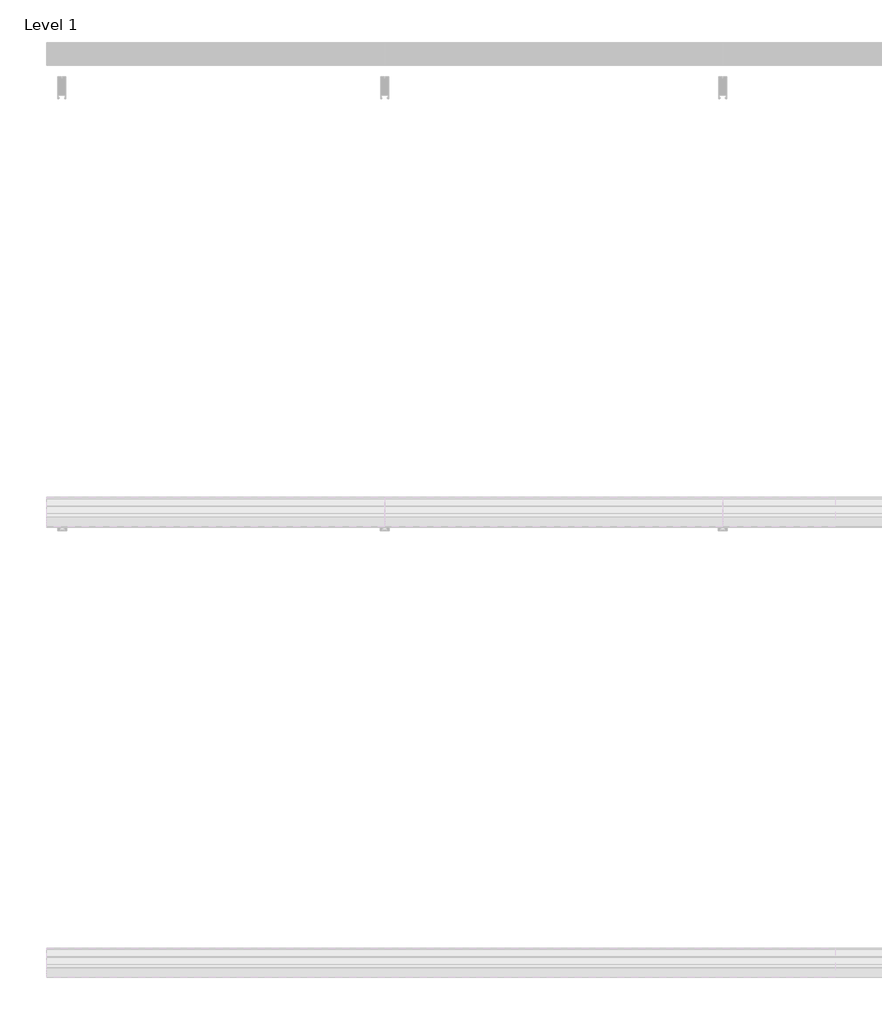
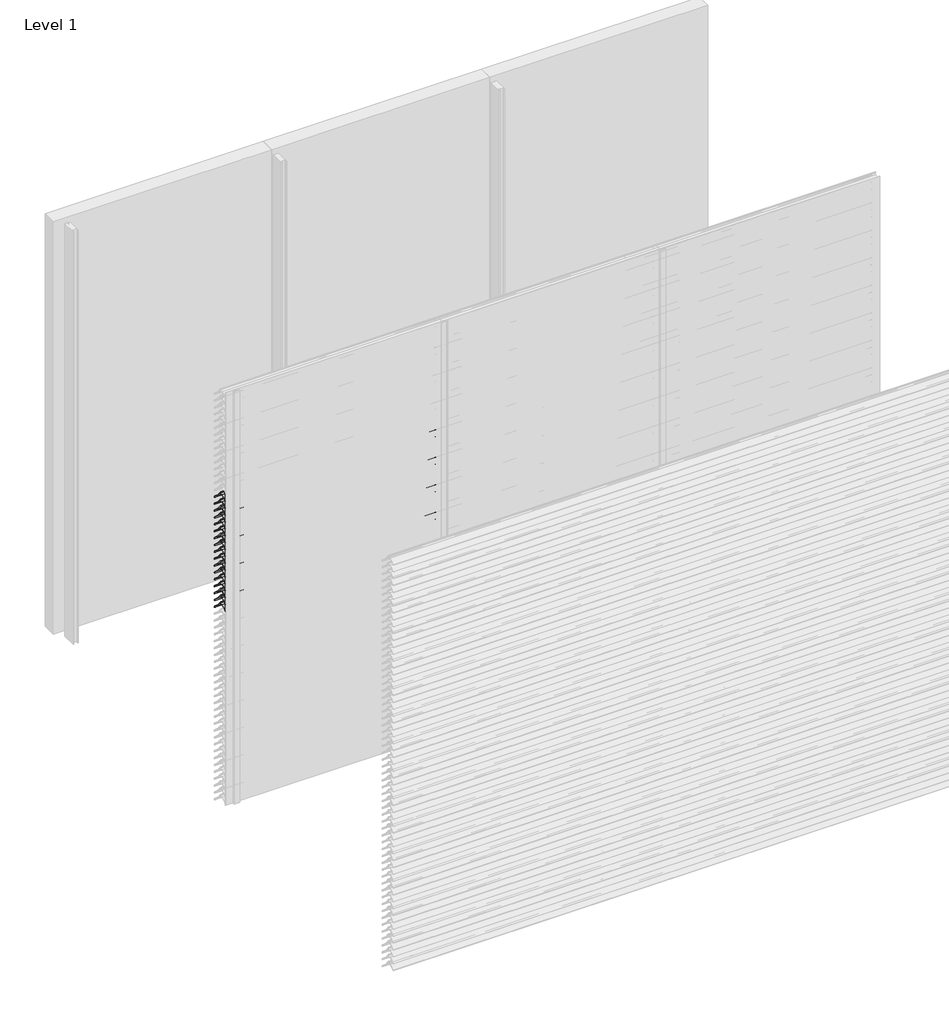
# One storey, part 93 of 173: 17 proxies.
"""IFC4 building model written with IfcOpenShell, lengths in millimetres."""

import ifcopenshell
import ifcopenshell.guid

model = None  # the IFC model being written
_history = None  # IfcOwnerHistory: only IFC2X3 demands one
_inside = {}  # id of a spatial element -> (the spatial element, [elements in it])
_under = {}  # id of a project, library or spatial element -> (it, [spatial elements below it])
_declared = {}  # id of a project -> (the project, [libraries it declares])
_typed = {}  # id of a type object -> (the type object, [elements of that type])
_made_of = {}  # id of a material, layer set ... -> (it, [elements and type objects made of it])


def new_model(schema):
    """Start an empty IFC model of exactly this schema.

    Asked for "IFC4X3", IfcOpenShell would pick the latest addendum, in which some entities
    have other attributes; the version numbers below select the first issue.
    IFC2X3 requires an IfcOwnerHistory on every rooted entity: one is made here for all.
    """
    global model, _history
    if schema == "IFC4X3":
        model = ifcopenshell.file(schema_version=(4, 3, 0, 0))
    else:
        model = ifcopenshell.file(schema=schema)
    _inside.clear()
    _under.clear()
    _declared.clear()
    _typed.clear()
    _made_of.clear()
    _history = None
    if model.schema == "IFC2X3":
        org = make("IfcOrganization", Name="unknown")
        user = make(
            "IfcPersonAndOrganization",
            ThePerson=make("IfcPerson", FamilyName="unknown"),
            TheOrganization=org,
        )
        app = make(
            "IfcApplication",
            ApplicationDeveloper=org,
            Version="unknown",
            ApplicationFullName="unknown",
            ApplicationIdentifier="unknown",
        )
        _history = make(
            "IfcOwnerHistory",
            OwningUser=user,
            OwningApplication=app,
            ChangeAction="ADDED",
            CreationDate=0,
        )
    return model


def make(cls, **values):
    """One entity of the class cls with the attributes given. An attribute that is None is left unset."""
    return model.create_entity(
        cls, **{name: value for name, value in values.items() if value is not None}
    )


def rooted(cls, **values):
    """An entity with a GlobalId (a new one), such as an element, a storey or a relation."""
    return make(cls, GlobalId=ifcopenshell.guid.new(), OwnerHistory=_history, **values)


def si_unit(unit_type, name, prefix=None):
    """IfcSIUnit, for example si_unit("LENGTHUNIT", "METRE", prefix="MILLI")."""
    return make("IfcSIUnit", UnitType=unit_type, Prefix=prefix, Name=name)


def assignment(units):
    """IfcUnitAssignment: the units of a project."""
    return None if units is None else make("IfcUnitAssignment", Units=units)


def point(xyz):
    """IfcCartesianPoint."""
    return None if xyz is None else make("IfcCartesianPoint", Coordinates=xyz)


def direction(xyz):
    """IfcDirection."""
    return None if xyz is None else make("IfcDirection", DirectionRatios=xyz)


def frame(location, z_axis=None, x_axis=None):
    """IfcAxis2Placement3D, a coordinate frame: its origin and axes. An axis left out is left unset."""
    return make(
        "IfcAxis2Placement3D",
        Location=point(location),
        Axis=direction(z_axis),
        RefDirection=direction(x_axis),
    )


def frame_2d(location, x_axis=None):
    """IfcAxis2Placement2D, a coordinate frame in the plane: its origin and x axis."""
    return make(
        "IfcAxis2Placement2D", Location=point(location), RefDirection=direction(x_axis)
    )


def origin():
    """The frame at (0, 0, 0) with its axes left unset."""
    return frame((0.0, 0.0, 0.0))


def place(relative_to, where):
    """IfcLocalPlacement: puts the frame where relative to a parent placement (None: the world)."""
    return make(
        "IfcLocalPlacement", PlacementRelTo=relative_to, RelativePlacement=where
    )


def context(
    kind, dimensions, precision=None, world=None, true_north=None, identifier=None
):
    """IfcGeometricRepresentationContext, for example the 3D "Model" context."""
    return make(
        "IfcGeometricRepresentationContext",
        ContextIdentifier=identifier,
        ContextType=kind,
        CoordinateSpaceDimension=dimensions,
        Precision=precision,
        WorldCoordinateSystem=world,
        TrueNorth=true_north,
    )


def project(units=None, contexts=None):
    """IfcProject with its units and contexts."""
    return rooted(
        "IfcProject",
        Name="project",
        RepresentationContexts=contexts,
        UnitsInContext=assignment(units),
    )


def spatial(cls, under=None, at=None, **own):
    """A site, building, storey or space (cls), placed at a placement, below another one or the project."""
    s = rooted(cls, ObjectPlacement=at, **own)
    if under is not None:
        _under.setdefault(under.id(), (under, []))[1].append(s)
    return s


def polyline(points):
    """IfcPolyline through the points."""
    return make("IfcPolyline", Points=[point(p) for p in points])


def circle_curve(where, radius):
    """IfcCircle in the frame where."""
    return make("IfcCircle", Position=where, Radius=radius)


def trimmed(basis, trim1, trim2, sense, master):
    """IfcTrimmedCurve: the piece of a basis curve between two trims."""
    return make(
        "IfcTrimmedCurve",
        BasisCurve=basis,
        Trim1=trim1,
        Trim2=trim2,
        SenseAgreement=sense,
        MasterRepresentation=master,
    )


def segment(curve, same_sense, transition):
    """IfcCompositeCurveSegment."""
    return make(
        "IfcCompositeCurveSegment",
        Transition=transition,
        SameSense=same_sense,
        ParentCurve=curve,
    )


def composite_curve(segments, self_intersect=None):
    """IfcCompositeCurve: segments joined end to end."""
    return make("IfcCompositeCurve", Segments=segments, SelfIntersect=self_intersect)


def outline(outer, holes=None, kind="AREA"):
    """IfcArbitraryClosedProfileDef: a profile drawn as a closed curve; with holes, ...WithVoids."""
    if holes is None:
        return make("IfcArbitraryClosedProfileDef", ProfileType=kind, OuterCurve=outer)
    return make(
        "IfcArbitraryProfileDefWithVoids",
        ProfileType=kind,
        OuterCurve=outer,
        InnerCurves=holes,
    )


def extrude(swept, where, along, depth):
    """IfcExtrudedAreaSolid: the profile swept, set in the frame where, extruded along a direction by depth."""
    return make(
        "IfcExtrudedAreaSolid",
        SweptArea=swept,
        Position=where,
        ExtrudedDirection=direction(along),
        Depth=depth,
    )


def shape(context_of_items, identifier, shape_type, items):
    """IfcShapeRepresentation: the items that make up one representation, for example the "Body"."""
    return make(
        "IfcShapeRepresentation",
        ContextOfItems=context_of_items,
        RepresentationIdentifier=identifier,
        RepresentationType=shape_type,
        Items=items,
    )


def made_of(thing, what):
    """Note that an element or type object is made of a material, layer set ...; save() writes the relation."""
    if what is not None:
        _made_of.setdefault(what.id(), (what, []))[1].append(thing)
    return thing


def element(
    cls,
    number,
    at=None,
    inside=None,
    cuts=None,
    type_object=None,
    material=None,
    context=None,
    identifier="Body",
    shape_type=None,
    held_by="IfcProductDefinitionShape",
    body=None,
    shapes=None,
    **own,
):
    """One element of the class cls, such as IfcWall. Its Tag is "e" and its number.

    at: its placement. inside: the storey or other place that contains it. cuts: it is an
    opening in that element (IfcRelVoidsElement). A single representation is given by context,
    identifier, shape_type and body (its items); several are given by shapes. held_by: the class
    of the entity that holds the representations. save() writes the other relations.
    """
    e = rooted(cls, Tag="e%d" % number, ObjectPlacement=at, **own)
    if body is not None:
        shapes = [shape(context, identifier, shape_type, body)]
    if shapes is not None:
        e.Representation = make(held_by, Representations=shapes)
    if inside is not None:
        _inside.setdefault(inside.id(), (inside, []))[1].append(e)
    if cuts is not None:
        rooted(
            "IfcRelVoidsElement", RelatingBuildingElement=cuts, RelatedOpeningElement=e
        )
    if type_object is not None:
        _typed.setdefault(type_object.id(), (type_object, []))[1].append(e)
    return made_of(e, material)


def aggregate(whole, parts):
    """IfcRelAggregates: a whole, such as a stair, and the parts it consists of."""
    return rooted("IfcRelAggregates", RelatingObject=whole, RelatedObjects=parts)


def save(model, path):
    """Write the relations noted so far, then the file.

    IfcRelAggregates (storeys below a building ...), IfcRelContainedInSpatialStructure (elements
    in a storey), IfcRelDefinesByType, IfcRelAssociatesMaterial and IfcRelDeclares: one each for
    every whole, place, type object, material and project.
    """
    for whole, parts in _under.values():
        aggregate(whole, parts)
    for where, things in _inside.values():
        rooted(
            "IfcRelContainedInSpatialStructure",
            RelatedElements=things,
            RelatingStructure=where,
        )
    for kind, things in _typed.values():
        rooted("IfcRelDefinesByType", RelatedObjects=things, RelatingType=kind)
    for what, things in _made_of.values():
        rooted("IfcRelAssociatesMaterial", RelatedObjects=things, RelatingMaterial=what)
    for by, libraries in _declared.values():
        rooted("IfcRelDeclares", RelatingContext=by, RelatedDefinitions=libraries)
    model.write(path)


model = new_model("IFC4")

# Units and contexts
model_context = context("Model", 3, world=origin())
ifc_project = project(units=[si_unit("LENGTHUNIT", "METRE", prefix="MILLI")], contexts=[model_context])

# Site, building, storey
site = spatial("IfcSite", under=ifc_project)
building = spatial("IfcBuilding", under=site)
storey = spatial("IfcBuildingStorey", under=building, Name="Level 1", Elevation=0.0)

# Proxies
placement = place(None, origin())
element("IfcBuildingElementProxy", 1, Name="Wall Sweeps", at=placement, inside=storey, context=model_context, shape_type="SweptSolid", body=[
    extrude(outline(composite_curve([segment(polyline([(-23998.0, 2209.1474905), (-23998.0, 2211.6227417)]), True, "CONTINUOUS"), segment(trimmed(circle_curve(frame_2d((-23951.2682172, 2166.2200208)), 65.1557103), [point((-23998.0, 2211.6227417))], [point((-23954.4014323, 2231.3003524))], False, "CARTESIAN"), True, "CONTINUOUS"), segment(polyline([(-23954.4014323, 2231.3003524), (-23934.8315836, 2231.3003524)]), True, "CONTINUOUS"), segment(trimmed(circle_curve(frame_2d((-23732.7329489, 2378.5533172)), 250.0545817), [point((-23934.8315836, 2231.3003524))], [point((-23941.4452143, 2240.8344583))], False, "CARTESIAN"), True, "CONTINUOUS"), segment(trimmed(circle_curve(frame_2d((-23953.2981792, 2235.1737835)), 13.1352966), [point((-23941.4452143, 2240.8344583))], [point((-23953.8171475, 2248.298824))], True, "CARTESIAN"), True, "CONTINUOUS"), segment(polyline([(-23953.8171475, 2248.298824), (-23953.8171475, 2250.0)]), True, "CONTINUOUS"), segment(trimmed(circle_curve(frame_2d((-23953.2981792, 2235.1737835)), 14.8352966), [point((-23953.8171475, 2250.0))], [point((-23939.9637661, 2241.6760487))], False, "CARTESIAN"), True, "CONTINUOUS"), segment(trimmed(circle_curve(frame_2d((-23732.7329489, 2378.5533172)), 248.3545817), [point((-23939.9637661, 2241.6760487))], [point((-23873.8787895, 2174.2059416))], True, "CARTESIAN"), True, "CONTINUOUS"), segment(trimmed(circle_curve(frame_2d((-23883.8147537, 2161.6649442)), 16.0), [point((-23873.8787895, 2174.2059416))], [point((-23867.8648347, 2160.4))], False, "CARTESIAN"), True, "CONTINUOUS"), segment(polyline([(-23867.8648347, 2160.4), (-23869.6712069, 2160.4)]), True, "CONTINUOUS"), segment(trimmed(circle_curve(frame_2d((-23883.8147537, 2161.6649442)), 14.2), [point((-23869.6712069, 2160.4))], [point((-23874.9518628, 2172.7594998))], True, "CARTESIAN"), True, "CONTINUOUS"), segment(trimmed(circle_curve(frame_2d((-23732.7329489, 2378.5533172)), 250.1545817), [point((-23874.9518628, 2172.7594998))], [point((-23933.7064024, 2229.6003524))], False, "CARTESIAN"), True, "CONTINUOUS"), segment(polyline([(-23933.7064024, 2229.6003524), (-23954.3602632, 2229.6003524)]), True, "CONTINUOUS"), segment(trimmed(circle_curve(frame_2d((-23951.2682172, 2166.2200208)), 63.4557103), [point((-23954.3602632, 2229.6003524))], [point((-23998.0, 2209.1474905))], True, "CARTESIAN"), True, "CONTINUOUS")], self_intersect=False)), frame((0.0, 0.0, 0.0), z_axis=(1.0, 0.0, 0.0), x_axis=(0.0, 1.0, 0.0)), (0.0, 0.0, 1.0), 1500.0),
])
element("IfcBuildingElementProxy", 2, Name="Wall Sweeps", at=placement, inside=storey, context=model_context, shape_type="SweptSolid", body=[
    extrude(outline(composite_curve([segment(polyline([(-23998.0, 2159.1474905), (-23998.0, 2161.6227417)]), True, "CONTINUOUS"), segment(trimmed(circle_curve(frame_2d((-23951.2682172, 2116.2200208)), 65.1557103), [point((-23998.0, 2161.6227417))], [point((-23954.4014323, 2181.3003524))], False, "CARTESIAN"), True, "CONTINUOUS"), segment(polyline([(-23954.4014323, 2181.3003524), (-23934.8315836, 2181.3003524)]), True, "CONTINUOUS"), segment(trimmed(circle_curve(frame_2d((-23732.7329489, 2328.5533172)), 250.0545817), [point((-23934.8315836, 2181.3003524))], [point((-23941.4452143, 2190.8344583))], False, "CARTESIAN"), True, "CONTINUOUS"), segment(trimmed(circle_curve(frame_2d((-23953.2981792, 2185.1737835)), 13.1352966), [point((-23941.4452143, 2190.8344583))], [point((-23953.8171475, 2198.298824))], True, "CARTESIAN"), True, "CONTINUOUS"), segment(polyline([(-23953.8171475, 2198.298824), (-23953.8171475, 2200.0)]), True, "CONTINUOUS"), segment(trimmed(circle_curve(frame_2d((-23953.2981792, 2185.1737835)), 14.8352966), [point((-23953.8171475, 2200.0))], [point((-23939.9637661, 2191.6760487))], False, "CARTESIAN"), True, "CONTINUOUS"), segment(trimmed(circle_curve(frame_2d((-23732.7329489, 2328.5533172)), 248.3545817), [point((-23939.9637661, 2191.6760487))], [point((-23873.8787895, 2124.2059416))], True, "CARTESIAN"), True, "CONTINUOUS"), segment(trimmed(circle_curve(frame_2d((-23883.8147537, 2111.6649442)), 16.0), [point((-23873.8787895, 2124.2059416))], [point((-23867.8648347, 2110.4))], False, "CARTESIAN"), True, "CONTINUOUS"), segment(polyline([(-23867.8648347, 2110.4), (-23869.6712069, 2110.4)]), True, "CONTINUOUS"), segment(trimmed(circle_curve(frame_2d((-23883.8147537, 2111.6649442)), 14.2), [point((-23869.6712069, 2110.4))], [point((-23874.9518628, 2122.7594998))], True, "CARTESIAN"), True, "CONTINUOUS"), segment(trimmed(circle_curve(frame_2d((-23732.7329489, 2328.5533172)), 250.1545817), [point((-23874.9518628, 2122.7594998))], [point((-23933.7064024, 2179.6003524))], False, "CARTESIAN"), True, "CONTINUOUS"), segment(polyline([(-23933.7064024, 2179.6003524), (-23954.3602632, 2179.6003524)]), True, "CONTINUOUS"), segment(trimmed(circle_curve(frame_2d((-23951.2682172, 2116.2200208)), 63.4557103), [point((-23954.3602632, 2179.6003524))], [point((-23998.0, 2159.1474905))], True, "CARTESIAN"), True, "CONTINUOUS")], self_intersect=False)), frame((0.0, 0.0, 0.0), z_axis=(1.0, 0.0, 0.0), x_axis=(0.0, 1.0, 0.0)), (0.0, 0.0, 1.0), 1500.0),
])
element("IfcBuildingElementProxy", 3, Name="Wall Sweeps", at=placement, inside=storey, context=model_context, shape_type="SweptSolid", body=[
    extrude(outline(composite_curve([segment(polyline([(-23998.0, 2109.1474905), (-23998.0, 2111.6227417)]), True, "CONTINUOUS"), segment(trimmed(circle_curve(frame_2d((-23951.2682172, 2066.2200208)), 65.1557103), [point((-23998.0, 2111.6227417))], [point((-23954.4014323, 2131.3003524))], False, "CARTESIAN"), True, "CONTINUOUS"), segment(polyline([(-23954.4014323, 2131.3003524), (-23934.8315836, 2131.3003524)]), True, "CONTINUOUS"), segment(trimmed(circle_curve(frame_2d((-23732.7329489, 2278.5533172)), 250.0545817), [point((-23934.8315836, 2131.3003524))], [point((-23941.4452143, 2140.8344583))], False, "CARTESIAN"), True, "CONTINUOUS"), segment(trimmed(circle_curve(frame_2d((-23953.2981792, 2135.1737835)), 13.1352966), [point((-23941.4452143, 2140.8344583))], [point((-23953.8171475, 2148.298824))], True, "CARTESIAN"), True, "CONTINUOUS"), segment(polyline([(-23953.8171475, 2148.298824), (-23953.8171475, 2150.0)]), True, "CONTINUOUS"), segment(trimmed(circle_curve(frame_2d((-23953.2981792, 2135.1737835)), 14.8352966), [point((-23953.8171475, 2150.0))], [point((-23939.9637661, 2141.6760487))], False, "CARTESIAN"), True, "CONTINUOUS"), segment(trimmed(circle_curve(frame_2d((-23732.7329489, 2278.5533172)), 248.3545817), [point((-23939.9637661, 2141.6760487))], [point((-23873.8787895, 2074.2059416))], True, "CARTESIAN"), True, "CONTINUOUS"), segment(trimmed(circle_curve(frame_2d((-23883.8147537, 2061.6649442)), 16.0), [point((-23873.8787895, 2074.2059416))], [point((-23867.8648347, 2060.4))], False, "CARTESIAN"), True, "CONTINUOUS"), segment(polyline([(-23867.8648347, 2060.4), (-23869.6712069, 2060.4)]), True, "CONTINUOUS"), segment(trimmed(circle_curve(frame_2d((-23883.8147537, 2061.6649442)), 14.2), [point((-23869.6712069, 2060.4))], [point((-23874.9518628, 2072.7594998))], True, "CARTESIAN"), True, "CONTINUOUS"), segment(trimmed(circle_curve(frame_2d((-23732.7329489, 2278.5533172)), 250.1545817), [point((-23874.9518628, 2072.7594998))], [point((-23933.7064024, 2129.6003524))], False, "CARTESIAN"), True, "CONTINUOUS"), segment(polyline([(-23933.7064024, 2129.6003524), (-23954.3602632, 2129.6003524)]), True, "CONTINUOUS"), segment(trimmed(circle_curve(frame_2d((-23951.2682172, 2066.2200208)), 63.4557103), [point((-23954.3602632, 2129.6003524))], [point((-23998.0, 2109.1474905))], True, "CARTESIAN"), True, "CONTINUOUS")], self_intersect=False)), frame((0.0, 0.0, 0.0), z_axis=(1.0, 0.0, 0.0), x_axis=(0.0, 1.0, 0.0)), (0.0, 0.0, 1.0), 1500.0),
])
element("IfcBuildingElementProxy", 4, Name="Wall Sweeps", at=placement, inside=storey, context=model_context, shape_type="SweptSolid", body=[
    extrude(outline(composite_curve([segment(polyline([(-23998.0, 2059.1474905), (-23998.0, 2061.6227417)]), True, "CONTINUOUS"), segment(trimmed(circle_curve(frame_2d((-23951.2682172, 2016.2200208)), 65.1557103), [point((-23998.0, 2061.6227417))], [point((-23954.4014323, 2081.3003524))], False, "CARTESIAN"), True, "CONTINUOUS"), segment(polyline([(-23954.4014323, 2081.3003524), (-23934.8315836, 2081.3003524)]), True, "CONTINUOUS"), segment(trimmed(circle_curve(frame_2d((-23732.7329489, 2228.5533172)), 250.0545817), [point((-23934.8315836, 2081.3003524))], [point((-23941.4452143, 2090.8344583))], False, "CARTESIAN"), True, "CONTINUOUS"), segment(trimmed(circle_curve(frame_2d((-23953.2981792, 2085.1737835)), 13.1352966), [point((-23941.4452143, 2090.8344583))], [point((-23953.8171475, 2098.298824))], True, "CARTESIAN"), True, "CONTINUOUS"), segment(polyline([(-23953.8171475, 2098.298824), (-23953.8171475, 2100.0)]), True, "CONTINUOUS"), segment(trimmed(circle_curve(frame_2d((-23953.2981792, 2085.1737835)), 14.8352966), [point((-23953.8171475, 2100.0))], [point((-23939.9637661, 2091.6760487))], False, "CARTESIAN"), True, "CONTINUOUS"), segment(trimmed(circle_curve(frame_2d((-23732.7329489, 2228.5533172)), 248.3545817), [point((-23939.9637661, 2091.6760487))], [point((-23873.8787895, 2024.2059416))], True, "CARTESIAN"), True, "CONTINUOUS"), segment(trimmed(circle_curve(frame_2d((-23883.8147537, 2011.6649442)), 16.0), [point((-23873.8787895, 2024.2059416))], [point((-23867.8648347, 2010.4))], False, "CARTESIAN"), True, "CONTINUOUS"), segment(polyline([(-23867.8648347, 2010.4), (-23869.6712069, 2010.4)]), True, "CONTINUOUS"), segment(trimmed(circle_curve(frame_2d((-23883.8147537, 2011.6649442)), 14.2), [point((-23869.6712069, 2010.4))], [point((-23874.9518628, 2022.7594998))], True, "CARTESIAN"), True, "CONTINUOUS"), segment(trimmed(circle_curve(frame_2d((-23732.7329489, 2228.5533172)), 250.1545817), [point((-23874.9518628, 2022.7594998))], [point((-23933.7064024, 2079.6003524))], False, "CARTESIAN"), True, "CONTINUOUS"), segment(polyline([(-23933.7064024, 2079.6003524), (-23954.3602632, 2079.6003524)]), True, "CONTINUOUS"), segment(trimmed(circle_curve(frame_2d((-23951.2682172, 2016.2200208)), 63.4557103), [point((-23954.3602632, 2079.6003524))], [point((-23998.0, 2059.1474905))], True, "CARTESIAN"), True, "CONTINUOUS")], self_intersect=False)), frame((0.0, 0.0, 0.0), z_axis=(1.0, 0.0, 0.0), x_axis=(0.0, 1.0, 0.0)), (0.0, 0.0, 1.0), 1500.0),
])
element("IfcBuildingElementProxy", 5, Name="Wall Sweeps", at=placement, inside=storey, context=model_context, shape_type="SweptSolid", body=[
    extrude(outline(composite_curve([segment(polyline([(-23998.0, 2009.1474905), (-23998.0, 2011.6227417)]), True, "CONTINUOUS"), segment(trimmed(circle_curve(frame_2d((-23951.2682172, 1966.2200208)), 65.1557103), [point((-23998.0, 2011.6227417))], [point((-23954.4014323, 2031.3003524))], False, "CARTESIAN"), True, "CONTINUOUS"), segment(polyline([(-23954.4014323, 2031.3003524), (-23934.8315836, 2031.3003524)]), True, "CONTINUOUS"), segment(trimmed(circle_curve(frame_2d((-23732.7329489, 2178.5533172)), 250.0545817), [point((-23934.8315836, 2031.3003524))], [point((-23941.4452143, 2040.8344583))], False, "CARTESIAN"), True, "CONTINUOUS"), segment(trimmed(circle_curve(frame_2d((-23953.2981792, 2035.1737835)), 13.1352966), [point((-23941.4452143, 2040.8344583))], [point((-23953.8171475, 2048.298824))], True, "CARTESIAN"), True, "CONTINUOUS"), segment(polyline([(-23953.8171475, 2048.298824), (-23953.8171475, 2050.0)]), True, "CONTINUOUS"), segment(trimmed(circle_curve(frame_2d((-23953.2981792, 2035.1737835)), 14.8352966), [point((-23953.8171475, 2050.0))], [point((-23939.9637661, 2041.6760487))], False, "CARTESIAN"), True, "CONTINUOUS"), segment(trimmed(circle_curve(frame_2d((-23732.7329489, 2178.5533172)), 248.3545817), [point((-23939.9637661, 2041.6760487))], [point((-23873.8787895, 1974.2059416))], True, "CARTESIAN"), True, "CONTINUOUS"), segment(trimmed(circle_curve(frame_2d((-23883.8147537, 1961.6649442)), 16.0), [point((-23873.8787895, 1974.2059416))], [point((-23867.8648347, 1960.4))], False, "CARTESIAN"), True, "CONTINUOUS"), segment(polyline([(-23867.8648347, 1960.4), (-23869.6712069, 1960.4)]), True, "CONTINUOUS"), segment(trimmed(circle_curve(frame_2d((-23883.8147537, 1961.6649442)), 14.2), [point((-23869.6712069, 1960.4))], [point((-23874.9518628, 1972.7594998))], True, "CARTESIAN"), True, "CONTINUOUS"), segment(trimmed(circle_curve(frame_2d((-23732.7329489, 2178.5533172)), 250.1545817), [point((-23874.9518628, 1972.7594998))], [point((-23933.7064024, 2029.6003524))], False, "CARTESIAN"), True, "CONTINUOUS"), segment(polyline([(-23933.7064024, 2029.6003524), (-23954.3602632, 2029.6003524)]), True, "CONTINUOUS"), segment(trimmed(circle_curve(frame_2d((-23951.2682172, 1966.2200208)), 63.4557103), [point((-23954.3602632, 2029.6003524))], [point((-23998.0, 2009.1474905))], True, "CARTESIAN"), True, "CONTINUOUS")], self_intersect=False)), frame((0.0, 0.0, 0.0), z_axis=(1.0, 0.0, 0.0), x_axis=(0.0, 1.0, 0.0)), (0.0, 0.0, 1.0), 1500.0),
])
element("IfcBuildingElementProxy", 6, Name="Wall Sweeps", at=placement, inside=storey, context=model_context, shape_type="SweptSolid", body=[
    extrude(outline(composite_curve([segment(polyline([(-23998.0, 1959.1474905), (-23998.0, 1961.6227417)]), True, "CONTINUOUS"), segment(trimmed(circle_curve(frame_2d((-23951.2682172, 1916.2200208)), 65.1557103), [point((-23998.0, 1961.6227417))], [point((-23954.4014323, 1981.3003524))], False, "CARTESIAN"), True, "CONTINUOUS"), segment(polyline([(-23954.4014323, 1981.3003524), (-23934.8315836, 1981.3003524)]), True, "CONTINUOUS"), segment(trimmed(circle_curve(frame_2d((-23732.7329489, 2128.5533172)), 250.0545817), [point((-23934.8315836, 1981.3003524))], [point((-23941.4452143, 1990.8344583))], False, "CARTESIAN"), True, "CONTINUOUS"), segment(trimmed(circle_curve(frame_2d((-23953.2981792, 1985.1737835)), 13.1352966), [point((-23941.4452143, 1990.8344583))], [point((-23953.8171475, 1998.298824))], True, "CARTESIAN"), True, "CONTINUOUS"), segment(polyline([(-23953.8171475, 1998.298824), (-23953.8171475, 2000.0)]), True, "CONTINUOUS"), segment(trimmed(circle_curve(frame_2d((-23953.2981792, 1985.1737835)), 14.8352966), [point((-23953.8171475, 2000.0))], [point((-23939.9637661, 1991.6760487))], False, "CARTESIAN"), True, "CONTINUOUS"), segment(trimmed(circle_curve(frame_2d((-23732.7329489, 2128.5533172)), 248.3545817), [point((-23939.9637661, 1991.6760487))], [point((-23873.8787895, 1924.2059416))], True, "CARTESIAN"), True, "CONTINUOUS"), segment(trimmed(circle_curve(frame_2d((-23883.8147537, 1911.6649442)), 16.0), [point((-23873.8787895, 1924.2059416))], [point((-23867.8648347, 1910.4))], False, "CARTESIAN"), True, "CONTINUOUS"), segment(polyline([(-23867.8648347, 1910.4), (-23869.6712069, 1910.4)]), True, "CONTINUOUS"), segment(trimmed(circle_curve(frame_2d((-23883.8147537, 1911.6649442)), 14.2), [point((-23869.6712069, 1910.4))], [point((-23874.9518628, 1922.7594998))], True, "CARTESIAN"), True, "CONTINUOUS"), segment(trimmed(circle_curve(frame_2d((-23732.7329489, 2128.5533172)), 250.1545817), [point((-23874.9518628, 1922.7594998))], [point((-23933.7064024, 1979.6003524))], False, "CARTESIAN"), True, "CONTINUOUS"), segment(polyline([(-23933.7064024, 1979.6003524), (-23954.3602632, 1979.6003524)]), True, "CONTINUOUS"), segment(trimmed(circle_curve(frame_2d((-23951.2682172, 1916.2200208)), 63.4557103), [point((-23954.3602632, 1979.6003524))], [point((-23998.0, 1959.1474905))], True, "CARTESIAN"), True, "CONTINUOUS")], self_intersect=False)), frame((0.0, 0.0, 0.0), z_axis=(1.0, 0.0, 0.0), x_axis=(0.0, 1.0, 0.0)), (0.0, 0.0, 1.0), 1500.0),
])
element("IfcBuildingElementProxy", 7, Name="Wall Sweeps", at=placement, inside=storey, context=model_context, shape_type="SweptSolid", body=[
    extrude(outline(composite_curve([segment(polyline([(-23998.0, 1909.1474905), (-23998.0, 1911.6227417)]), True, "CONTINUOUS"), segment(trimmed(circle_curve(frame_2d((-23951.2682172, 1866.2200208)), 65.1557103), [point((-23998.0, 1911.6227417))], [point((-23954.4014323, 1931.3003524))], False, "CARTESIAN"), True, "CONTINUOUS"), segment(polyline([(-23954.4014323, 1931.3003524), (-23934.8315836, 1931.3003524)]), True, "CONTINUOUS"), segment(trimmed(circle_curve(frame_2d((-23732.7329489, 2078.5533172)), 250.0545817), [point((-23934.8315836, 1931.3003524))], [point((-23941.4452143, 1940.8344583))], False, "CARTESIAN"), True, "CONTINUOUS"), segment(trimmed(circle_curve(frame_2d((-23953.2981792, 1935.1737835)), 13.1352966), [point((-23941.4452143, 1940.8344583))], [point((-23953.8171475, 1948.298824))], True, "CARTESIAN"), True, "CONTINUOUS"), segment(polyline([(-23953.8171475, 1948.298824), (-23953.8171475, 1950.0)]), True, "CONTINUOUS"), segment(trimmed(circle_curve(frame_2d((-23953.2981792, 1935.1737835)), 14.8352966), [point((-23953.8171475, 1950.0))], [point((-23939.9637661, 1941.6760487))], False, "CARTESIAN"), True, "CONTINUOUS"), segment(trimmed(circle_curve(frame_2d((-23732.7329489, 2078.5533172)), 248.3545817), [point((-23939.9637661, 1941.6760487))], [point((-23873.8787895, 1874.2059416))], True, "CARTESIAN"), True, "CONTINUOUS"), segment(trimmed(circle_curve(frame_2d((-23883.8147537, 1861.6649442)), 16.0), [point((-23873.8787895, 1874.2059416))], [point((-23867.8648347, 1860.4))], False, "CARTESIAN"), True, "CONTINUOUS"), segment(polyline([(-23867.8648347, 1860.4), (-23869.6712069, 1860.4)]), True, "CONTINUOUS"), segment(trimmed(circle_curve(frame_2d((-23883.8147537, 1861.6649442)), 14.2), [point((-23869.6712069, 1860.4))], [point((-23874.9518628, 1872.7594998))], True, "CARTESIAN"), True, "CONTINUOUS"), segment(trimmed(circle_curve(frame_2d((-23732.7329489, 2078.5533172)), 250.1545817), [point((-23874.9518628, 1872.7594998))], [point((-23933.7064024, 1929.6003524))], False, "CARTESIAN"), True, "CONTINUOUS"), segment(polyline([(-23933.7064024, 1929.6003524), (-23954.3602632, 1929.6003524)]), True, "CONTINUOUS"), segment(trimmed(circle_curve(frame_2d((-23951.2682172, 1866.2200208)), 63.4557103), [point((-23954.3602632, 1929.6003524))], [point((-23998.0, 1909.1474905))], True, "CARTESIAN"), True, "CONTINUOUS")], self_intersect=False)), frame((0.0, 0.0, 0.0), z_axis=(1.0, 0.0, 0.0), x_axis=(0.0, 1.0, 0.0)), (0.0, 0.0, 1.0), 1500.0),
])
element("IfcBuildingElementProxy", 8, Name="Wall Sweeps", at=placement, inside=storey, context=model_context, shape_type="SweptSolid", body=[
    extrude(outline(composite_curve([segment(polyline([(-23998.0, 1859.1474905), (-23998.0, 1861.6227417)]), True, "CONTINUOUS"), segment(trimmed(circle_curve(frame_2d((-23951.2682172, 1816.2200208)), 65.1557103), [point((-23998.0, 1861.6227417))], [point((-23954.4014323, 1881.3003524))], False, "CARTESIAN"), True, "CONTINUOUS"), segment(polyline([(-23954.4014323, 1881.3003524), (-23934.8315836, 1881.3003524)]), True, "CONTINUOUS"), segment(trimmed(circle_curve(frame_2d((-23732.7329489, 2028.5533172)), 250.0545817), [point((-23934.8315836, 1881.3003524))], [point((-23941.4452143, 1890.8344583))], False, "CARTESIAN"), True, "CONTINUOUS"), segment(trimmed(circle_curve(frame_2d((-23953.2981792, 1885.1737835)), 13.1352966), [point((-23941.4452143, 1890.8344583))], [point((-23953.8171475, 1898.298824))], True, "CARTESIAN"), True, "CONTINUOUS"), segment(polyline([(-23953.8171475, 1898.298824), (-23953.8171475, 1900.0)]), True, "CONTINUOUS"), segment(trimmed(circle_curve(frame_2d((-23953.2981792, 1885.1737835)), 14.8352966), [point((-23953.8171475, 1900.0))], [point((-23939.9637661, 1891.6760487))], False, "CARTESIAN"), True, "CONTINUOUS"), segment(trimmed(circle_curve(frame_2d((-23732.7329489, 2028.5533172)), 248.3545817), [point((-23939.9637661, 1891.6760487))], [point((-23873.8787895, 1824.2059416))], True, "CARTESIAN"), True, "CONTINUOUS"), segment(trimmed(circle_curve(frame_2d((-23883.8147537, 1811.6649442)), 16.0), [point((-23873.8787895, 1824.2059416))], [point((-23867.8648347, 1810.4))], False, "CARTESIAN"), True, "CONTINUOUS"), segment(polyline([(-23867.8648347, 1810.4), (-23869.6712069, 1810.4)]), True, "CONTINUOUS"), segment(trimmed(circle_curve(frame_2d((-23883.8147537, 1811.6649442)), 14.2), [point((-23869.6712069, 1810.4))], [point((-23874.9518628, 1822.7594998))], True, "CARTESIAN"), True, "CONTINUOUS"), segment(trimmed(circle_curve(frame_2d((-23732.7329489, 2028.5533172)), 250.1545817), [point((-23874.9518628, 1822.7594998))], [point((-23933.7064024, 1879.6003524))], False, "CARTESIAN"), True, "CONTINUOUS"), segment(polyline([(-23933.7064024, 1879.6003524), (-23954.3602632, 1879.6003524)]), True, "CONTINUOUS"), segment(trimmed(circle_curve(frame_2d((-23951.2682172, 1816.2200208)), 63.4557103), [point((-23954.3602632, 1879.6003524))], [point((-23998.0, 1859.1474905))], True, "CARTESIAN"), True, "CONTINUOUS")], self_intersect=False)), frame((0.0, 0.0, 0.0), z_axis=(1.0, 0.0, 0.0), x_axis=(0.0, 1.0, 0.0)), (0.0, 0.0, 1.0), 1500.0),
])
element("IfcBuildingElementProxy", 9, Name="Wall Sweeps", at=placement, inside=storey, context=model_context, shape_type="SweptSolid", body=[
    extrude(outline(composite_curve([segment(polyline([(-23998.0, 1809.1474905), (-23998.0, 1811.6227417)]), True, "CONTINUOUS"), segment(trimmed(circle_curve(frame_2d((-23951.2682172, 1766.2200208)), 65.1557103), [point((-23998.0, 1811.6227417))], [point((-23954.4014323, 1831.3003524))], False, "CARTESIAN"), True, "CONTINUOUS"), segment(polyline([(-23954.4014323, 1831.3003524), (-23934.8315836, 1831.3003524)]), True, "CONTINUOUS"), segment(trimmed(circle_curve(frame_2d((-23732.7329489, 1978.5533172)), 250.0545817), [point((-23934.8315836, 1831.3003524))], [point((-23941.4452143, 1840.8344583))], False, "CARTESIAN"), True, "CONTINUOUS"), segment(trimmed(circle_curve(frame_2d((-23953.2981792, 1835.1737835)), 13.1352966), [point((-23941.4452143, 1840.8344583))], [point((-23953.8171475, 1848.298824))], True, "CARTESIAN"), True, "CONTINUOUS"), segment(polyline([(-23953.8171475, 1848.298824), (-23953.8171475, 1850.0)]), True, "CONTINUOUS"), segment(trimmed(circle_curve(frame_2d((-23953.2981792, 1835.1737835)), 14.8352966), [point((-23953.8171475, 1850.0))], [point((-23939.9637661, 1841.6760487))], False, "CARTESIAN"), True, "CONTINUOUS"), segment(trimmed(circle_curve(frame_2d((-23732.7329489, 1978.5533172)), 248.3545817), [point((-23939.9637661, 1841.6760487))], [point((-23873.8787895, 1774.2059416))], True, "CARTESIAN"), True, "CONTINUOUS"), segment(trimmed(circle_curve(frame_2d((-23883.8147537, 1761.6649442)), 16.0), [point((-23873.8787895, 1774.2059416))], [point((-23867.8648347, 1760.4))], False, "CARTESIAN"), True, "CONTINUOUS"), segment(polyline([(-23867.8648347, 1760.4), (-23869.6712069, 1760.4)]), True, "CONTINUOUS"), segment(trimmed(circle_curve(frame_2d((-23883.8147537, 1761.6649442)), 14.2), [point((-23869.6712069, 1760.4))], [point((-23874.9518628, 1772.7594998))], True, "CARTESIAN"), True, "CONTINUOUS"), segment(trimmed(circle_curve(frame_2d((-23732.7329489, 1978.5533172)), 250.1545817), [point((-23874.9518628, 1772.7594998))], [point((-23933.7064024, 1829.6003524))], False, "CARTESIAN"), True, "CONTINUOUS"), segment(polyline([(-23933.7064024, 1829.6003524), (-23954.3602632, 1829.6003524)]), True, "CONTINUOUS"), segment(trimmed(circle_curve(frame_2d((-23951.2682172, 1766.2200208)), 63.4557103), [point((-23954.3602632, 1829.6003524))], [point((-23998.0, 1809.1474905))], True, "CARTESIAN"), True, "CONTINUOUS")], self_intersect=False)), frame((0.0, 0.0, 0.0), z_axis=(1.0, 0.0, 0.0), x_axis=(0.0, 1.0, 0.0)), (0.0, 0.0, 1.0), 1500.0),
])
element("IfcBuildingElementProxy", 10, Name="Wall Sweeps", at=placement, inside=storey, context=model_context, shape_type="SweptSolid", body=[
    extrude(outline(composite_curve([segment(polyline([(-23998.0, 1759.1474905), (-23998.0, 1761.6227417)]), True, "CONTINUOUS"), segment(trimmed(circle_curve(frame_2d((-23951.2682172, 1716.2200208)), 65.1557103), [point((-23998.0, 1761.6227417))], [point((-23954.4014323, 1781.3003524))], False, "CARTESIAN"), True, "CONTINUOUS"), segment(polyline([(-23954.4014323, 1781.3003524), (-23934.8315836, 1781.3003524)]), True, "CONTINUOUS"), segment(trimmed(circle_curve(frame_2d((-23732.7329489, 1928.5533172)), 250.0545817), [point((-23934.8315836, 1781.3003524))], [point((-23941.4452143, 1790.8344583))], False, "CARTESIAN"), True, "CONTINUOUS"), segment(trimmed(circle_curve(frame_2d((-23953.2981792, 1785.1737835)), 13.1352966), [point((-23941.4452143, 1790.8344583))], [point((-23953.8171475, 1798.298824))], True, "CARTESIAN"), True, "CONTINUOUS"), segment(polyline([(-23953.8171475, 1798.298824), (-23953.8171475, 1800.0)]), True, "CONTINUOUS"), segment(trimmed(circle_curve(frame_2d((-23953.2981792, 1785.1737835)), 14.8352966), [point((-23953.8171475, 1800.0))], [point((-23939.9637661, 1791.6760487))], False, "CARTESIAN"), True, "CONTINUOUS"), segment(trimmed(circle_curve(frame_2d((-23732.7329489, 1928.5533172)), 248.3545817), [point((-23939.9637661, 1791.6760487))], [point((-23873.8787895, 1724.2059416))], True, "CARTESIAN"), True, "CONTINUOUS"), segment(trimmed(circle_curve(frame_2d((-23883.8147537, 1711.6649442)), 16.0), [point((-23873.8787895, 1724.2059416))], [point((-23867.8648347, 1710.4))], False, "CARTESIAN"), True, "CONTINUOUS"), segment(polyline([(-23867.8648347, 1710.4), (-23869.6712069, 1710.4)]), True, "CONTINUOUS"), segment(trimmed(circle_curve(frame_2d((-23883.8147537, 1711.6649442)), 14.2), [point((-23869.6712069, 1710.4))], [point((-23874.9518628, 1722.7594998))], True, "CARTESIAN"), True, "CONTINUOUS"), segment(trimmed(circle_curve(frame_2d((-23732.7329489, 1928.5533172)), 250.1545817), [point((-23874.9518628, 1722.7594998))], [point((-23933.7064024, 1779.6003524))], False, "CARTESIAN"), True, "CONTINUOUS"), segment(polyline([(-23933.7064024, 1779.6003524), (-23954.3602632, 1779.6003524)]), True, "CONTINUOUS"), segment(trimmed(circle_curve(frame_2d((-23951.2682172, 1716.2200208)), 63.4557103), [point((-23954.3602632, 1779.6003524))], [point((-23998.0, 1759.1474905))], True, "CARTESIAN"), True, "CONTINUOUS")], self_intersect=False)), frame((0.0, 0.0, 0.0), z_axis=(1.0, 0.0, 0.0), x_axis=(0.0, 1.0, 0.0)), (0.0, 0.0, 1.0), 1500.0),
])
element("IfcBuildingElementProxy", 11, Name="Wall Sweeps", at=placement, inside=storey, context=model_context, shape_type="SweptSolid", body=[
    extrude(outline(composite_curve([segment(polyline([(-23998.0, 1709.1474905), (-23998.0, 1711.6227417)]), True, "CONTINUOUS"), segment(trimmed(circle_curve(frame_2d((-23951.2682172, 1666.2200208)), 65.1557103), [point((-23998.0, 1711.6227417))], [point((-23954.4014323, 1731.3003524))], False, "CARTESIAN"), True, "CONTINUOUS"), segment(polyline([(-23954.4014323, 1731.3003524), (-23934.8315836, 1731.3003524)]), True, "CONTINUOUS"), segment(trimmed(circle_curve(frame_2d((-23732.7329489, 1878.5533172)), 250.0545817), [point((-23934.8315836, 1731.3003524))], [point((-23941.4452143, 1740.8344583))], False, "CARTESIAN"), True, "CONTINUOUS"), segment(trimmed(circle_curve(frame_2d((-23953.2981792, 1735.1737835)), 13.1352966), [point((-23941.4452143, 1740.8344583))], [point((-23953.8171475, 1748.298824))], True, "CARTESIAN"), True, "CONTINUOUS"), segment(polyline([(-23953.8171475, 1748.298824), (-23953.8171475, 1750.0)]), True, "CONTINUOUS"), segment(trimmed(circle_curve(frame_2d((-23953.2981792, 1735.1737835)), 14.8352966), [point((-23953.8171475, 1750.0))], [point((-23939.9637661, 1741.6760487))], False, "CARTESIAN"), True, "CONTINUOUS"), segment(trimmed(circle_curve(frame_2d((-23732.7329489, 1878.5533172)), 248.3545817), [point((-23939.9637661, 1741.6760487))], [point((-23873.8787895, 1674.2059416))], True, "CARTESIAN"), True, "CONTINUOUS"), segment(trimmed(circle_curve(frame_2d((-23883.8147537, 1661.6649442)), 16.0), [point((-23873.8787895, 1674.2059416))], [point((-23867.8648347, 1660.4))], False, "CARTESIAN"), True, "CONTINUOUS"), segment(polyline([(-23867.8648347, 1660.4), (-23869.6712069, 1660.4)]), True, "CONTINUOUS"), segment(trimmed(circle_curve(frame_2d((-23883.8147537, 1661.6649442)), 14.2), [point((-23869.6712069, 1660.4))], [point((-23874.9518628, 1672.7594998))], True, "CARTESIAN"), True, "CONTINUOUS"), segment(trimmed(circle_curve(frame_2d((-23732.7329489, 1878.5533172)), 250.1545817), [point((-23874.9518628, 1672.7594998))], [point((-23933.7064024, 1729.6003524))], False, "CARTESIAN"), True, "CONTINUOUS"), segment(polyline([(-23933.7064024, 1729.6003524), (-23954.3602632, 1729.6003524)]), True, "CONTINUOUS"), segment(trimmed(circle_curve(frame_2d((-23951.2682172, 1666.2200208)), 63.4557103), [point((-23954.3602632, 1729.6003524))], [point((-23998.0, 1709.1474905))], True, "CARTESIAN"), True, "CONTINUOUS")], self_intersect=False)), frame((0.0, 0.0, 0.0), z_axis=(1.0, 0.0, 0.0), x_axis=(0.0, 1.0, 0.0)), (0.0, 0.0, 1.0), 1500.0),
])
element("IfcBuildingElementProxy", 12, Name="Wall Sweeps", at=placement, inside=storey, context=model_context, shape_type="SweptSolid", body=[
    extrude(outline(composite_curve([segment(polyline([(-23998.0, 1659.1474905), (-23998.0, 1661.6227417)]), True, "CONTINUOUS"), segment(trimmed(circle_curve(frame_2d((-23951.2682172, 1616.2200208)), 65.1557103), [point((-23998.0, 1661.6227417))], [point((-23954.4014323, 1681.3003524))], False, "CARTESIAN"), True, "CONTINUOUS"), segment(polyline([(-23954.4014323, 1681.3003524), (-23934.8315836, 1681.3003524)]), True, "CONTINUOUS"), segment(trimmed(circle_curve(frame_2d((-23732.7329489, 1828.5533172)), 250.0545817), [point((-23934.8315836, 1681.3003524))], [point((-23941.4452143, 1690.8344583))], False, "CARTESIAN"), True, "CONTINUOUS"), segment(trimmed(circle_curve(frame_2d((-23953.2981792, 1685.1737835)), 13.1352966), [point((-23941.4452143, 1690.8344583))], [point((-23953.8171475, 1698.298824))], True, "CARTESIAN"), True, "CONTINUOUS"), segment(polyline([(-23953.8171475, 1698.298824), (-23953.8171475, 1700.0)]), True, "CONTINUOUS"), segment(trimmed(circle_curve(frame_2d((-23953.2981792, 1685.1737835)), 14.8352966), [point((-23953.8171475, 1700.0))], [point((-23939.9637661, 1691.6760487))], False, "CARTESIAN"), True, "CONTINUOUS"), segment(trimmed(circle_curve(frame_2d((-23732.7329489, 1828.5533172)), 248.3545817), [point((-23939.9637661, 1691.6760487))], [point((-23873.8787895, 1624.2059416))], True, "CARTESIAN"), True, "CONTINUOUS"), segment(trimmed(circle_curve(frame_2d((-23883.8147537, 1611.6649442)), 16.0), [point((-23873.8787895, 1624.2059416))], [point((-23867.8648347, 1610.4))], False, "CARTESIAN"), True, "CONTINUOUS"), segment(polyline([(-23867.8648347, 1610.4), (-23869.6712069, 1610.4)]), True, "CONTINUOUS"), segment(trimmed(circle_curve(frame_2d((-23883.8147537, 1611.6649442)), 14.2), [point((-23869.6712069, 1610.4))], [point((-23874.9518628, 1622.7594998))], True, "CARTESIAN"), True, "CONTINUOUS"), segment(trimmed(circle_curve(frame_2d((-23732.7329489, 1828.5533172)), 250.1545817), [point((-23874.9518628, 1622.7594998))], [point((-23933.7064024, 1679.6003524))], False, "CARTESIAN"), True, "CONTINUOUS"), segment(polyline([(-23933.7064024, 1679.6003524), (-23954.3602632, 1679.6003524)]), True, "CONTINUOUS"), segment(trimmed(circle_curve(frame_2d((-23951.2682172, 1616.2200208)), 63.4557103), [point((-23954.3602632, 1679.6003524))], [point((-23998.0, 1659.1474905))], True, "CARTESIAN"), True, "CONTINUOUS")], self_intersect=False)), frame((0.0, 0.0, 0.0), z_axis=(1.0, 0.0, 0.0), x_axis=(0.0, 1.0, 0.0)), (0.0, 0.0, 1.0), 1500.0),
])
element("IfcBuildingElementProxy", 13, Name="Wall Sweeps", at=placement, inside=storey, context=model_context, shape_type="SweptSolid", body=[
    extrude(outline(composite_curve([segment(polyline([(-23998.0, 1609.1474905), (-23998.0, 1611.6227417)]), True, "CONTINUOUS"), segment(trimmed(circle_curve(frame_2d((-23951.2682172, 1566.2200208)), 65.1557103), [point((-23998.0, 1611.6227417))], [point((-23954.4014323, 1631.3003524))], False, "CARTESIAN"), True, "CONTINUOUS"), segment(polyline([(-23954.4014323, 1631.3003524), (-23934.8315836, 1631.3003524)]), True, "CONTINUOUS"), segment(trimmed(circle_curve(frame_2d((-23732.7329489, 1778.5533172)), 250.0545817), [point((-23934.8315836, 1631.3003524))], [point((-23941.4452143, 1640.8344583))], False, "CARTESIAN"), True, "CONTINUOUS"), segment(trimmed(circle_curve(frame_2d((-23953.2981792, 1635.1737835)), 13.1352966), [point((-23941.4452143, 1640.8344583))], [point((-23953.8171475, 1648.298824))], True, "CARTESIAN"), True, "CONTINUOUS"), segment(polyline([(-23953.8171475, 1648.298824), (-23953.8171475, 1650.0)]), True, "CONTINUOUS"), segment(trimmed(circle_curve(frame_2d((-23953.2981792, 1635.1737835)), 14.8352966), [point((-23953.8171475, 1650.0))], [point((-23939.9637661, 1641.6760487))], False, "CARTESIAN"), True, "CONTINUOUS"), segment(trimmed(circle_curve(frame_2d((-23732.7329489, 1778.5533172)), 248.3545817), [point((-23939.9637661, 1641.6760487))], [point((-23873.8787895, 1574.2059416))], True, "CARTESIAN"), True, "CONTINUOUS"), segment(trimmed(circle_curve(frame_2d((-23883.8147537, 1561.6649442)), 16.0), [point((-23873.8787895, 1574.2059416))], [point((-23867.8648347, 1560.4))], False, "CARTESIAN"), True, "CONTINUOUS"), segment(polyline([(-23867.8648347, 1560.4), (-23869.6712069, 1560.4)]), True, "CONTINUOUS"), segment(trimmed(circle_curve(frame_2d((-23883.8147537, 1561.6649442)), 14.2), [point((-23869.6712069, 1560.4))], [point((-23874.9518628, 1572.7594998))], True, "CARTESIAN"), True, "CONTINUOUS"), segment(trimmed(circle_curve(frame_2d((-23732.7329489, 1778.5533172)), 250.1545817), [point((-23874.9518628, 1572.7594998))], [point((-23933.7064024, 1629.6003524))], False, "CARTESIAN"), True, "CONTINUOUS"), segment(polyline([(-23933.7064024, 1629.6003524), (-23954.3602632, 1629.6003524)]), True, "CONTINUOUS"), segment(trimmed(circle_curve(frame_2d((-23951.2682172, 1566.2200208)), 63.4557103), [point((-23954.3602632, 1629.6003524))], [point((-23998.0, 1609.1474905))], True, "CARTESIAN"), True, "CONTINUOUS")], self_intersect=False)), frame((0.0, 0.0, 0.0), z_axis=(1.0, 0.0, 0.0), x_axis=(0.0, 1.0, 0.0)), (0.0, 0.0, 1.0), 1500.0),
])
element("IfcBuildingElementProxy", 14, Name="Wall Sweeps", at=placement, inside=storey, context=model_context, shape_type="SweptSolid", body=[
    extrude(outline(composite_curve([segment(polyline([(-23998.0, 1559.1474905), (-23998.0, 1561.6227417)]), True, "CONTINUOUS"), segment(trimmed(circle_curve(frame_2d((-23951.2682172, 1516.2200208)), 65.1557103), [point((-23998.0, 1561.6227417))], [point((-23954.4014323, 1581.3003524))], False, "CARTESIAN"), True, "CONTINUOUS"), segment(polyline([(-23954.4014323, 1581.3003524), (-23934.8315836, 1581.3003524)]), True, "CONTINUOUS"), segment(trimmed(circle_curve(frame_2d((-23732.7329489, 1728.5533172)), 250.0545817), [point((-23934.8315836, 1581.3003524))], [point((-23941.4452143, 1590.8344583))], False, "CARTESIAN"), True, "CONTINUOUS"), segment(trimmed(circle_curve(frame_2d((-23953.2981792, 1585.1737835)), 13.1352966), [point((-23941.4452143, 1590.8344583))], [point((-23953.8171475, 1598.298824))], True, "CARTESIAN"), True, "CONTINUOUS"), segment(polyline([(-23953.8171475, 1598.298824), (-23953.8171475, 1600.0)]), True, "CONTINUOUS"), segment(trimmed(circle_curve(frame_2d((-23953.2981792, 1585.1737835)), 14.8352966), [point((-23953.8171475, 1600.0))], [point((-23939.9637661, 1591.6760487))], False, "CARTESIAN"), True, "CONTINUOUS"), segment(trimmed(circle_curve(frame_2d((-23732.7329489, 1728.5533172)), 248.3545817), [point((-23939.9637661, 1591.6760487))], [point((-23873.8787895, 1524.2059416))], True, "CARTESIAN"), True, "CONTINUOUS"), segment(trimmed(circle_curve(frame_2d((-23883.8147537, 1511.6649442)), 16.0), [point((-23873.8787895, 1524.2059416))], [point((-23867.8648347, 1510.4))], False, "CARTESIAN"), True, "CONTINUOUS"), segment(polyline([(-23867.8648347, 1510.4), (-23869.6712069, 1510.4)]), True, "CONTINUOUS"), segment(trimmed(circle_curve(frame_2d((-23883.8147537, 1511.6649442)), 14.2), [point((-23869.6712069, 1510.4))], [point((-23874.9518628, 1522.7594998))], True, "CARTESIAN"), True, "CONTINUOUS"), segment(trimmed(circle_curve(frame_2d((-23732.7329489, 1728.5533172)), 250.1545817), [point((-23874.9518628, 1522.7594998))], [point((-23933.7064024, 1579.6003524))], False, "CARTESIAN"), True, "CONTINUOUS"), segment(polyline([(-23933.7064024, 1579.6003524), (-23954.3602632, 1579.6003524)]), True, "CONTINUOUS"), segment(trimmed(circle_curve(frame_2d((-23951.2682172, 1516.2200208)), 63.4557103), [point((-23954.3602632, 1579.6003524))], [point((-23998.0, 1559.1474905))], True, "CARTESIAN"), True, "CONTINUOUS")], self_intersect=False)), frame((0.0, 0.0, 0.0), z_axis=(1.0, 0.0, 0.0), x_axis=(0.0, 1.0, 0.0)), (0.0, 0.0, 1.0), 1500.0),
])
element("IfcBuildingElementProxy", 15, Name="Wall Sweeps", at=placement, inside=storey, context=model_context, shape_type="SweptSolid", body=[
    extrude(outline(composite_curve([segment(polyline([(-23998.0, 1509.1474905), (-23998.0, 1511.6227417)]), True, "CONTINUOUS"), segment(trimmed(circle_curve(frame_2d((-23951.2682172, 1466.2200208)), 65.1557103), [point((-23998.0, 1511.6227417))], [point((-23954.4014323, 1531.3003524))], False, "CARTESIAN"), True, "CONTINUOUS"), segment(polyline([(-23954.4014323, 1531.3003524), (-23934.8315836, 1531.3003524)]), True, "CONTINUOUS"), segment(trimmed(circle_curve(frame_2d((-23732.7329489, 1678.5533172)), 250.0545817), [point((-23934.8315836, 1531.3003524))], [point((-23941.4452143, 1540.8344583))], False, "CARTESIAN"), True, "CONTINUOUS"), segment(trimmed(circle_curve(frame_2d((-23953.2981792, 1535.1737835)), 13.1352966), [point((-23941.4452143, 1540.8344583))], [point((-23953.8171475, 1548.298824))], True, "CARTESIAN"), True, "CONTINUOUS"), segment(polyline([(-23953.8171475, 1548.298824), (-23953.8171475, 1550.0)]), True, "CONTINUOUS"), segment(trimmed(circle_curve(frame_2d((-23953.2981792, 1535.1737835)), 14.8352966), [point((-23953.8171475, 1550.0))], [point((-23939.9637661, 1541.6760487))], False, "CARTESIAN"), True, "CONTINUOUS"), segment(trimmed(circle_curve(frame_2d((-23732.7329489, 1678.5533172)), 248.3545817), [point((-23939.9637661, 1541.6760487))], [point((-23873.8787895, 1474.2059416))], True, "CARTESIAN"), True, "CONTINUOUS"), segment(trimmed(circle_curve(frame_2d((-23883.8147537, 1461.6649442)), 16.0), [point((-23873.8787895, 1474.2059416))], [point((-23867.8648347, 1460.4))], False, "CARTESIAN"), True, "CONTINUOUS"), segment(polyline([(-23867.8648347, 1460.4), (-23869.6712069, 1460.4)]), True, "CONTINUOUS"), segment(trimmed(circle_curve(frame_2d((-23883.8147537, 1461.6649442)), 14.2), [point((-23869.6712069, 1460.4))], [point((-23874.9518628, 1472.7594998))], True, "CARTESIAN"), True, "CONTINUOUS"), segment(trimmed(circle_curve(frame_2d((-23732.7329489, 1678.5533172)), 250.1545817), [point((-23874.9518628, 1472.7594998))], [point((-23933.7064024, 1529.6003524))], False, "CARTESIAN"), True, "CONTINUOUS"), segment(polyline([(-23933.7064024, 1529.6003524), (-23954.3602632, 1529.6003524)]), True, "CONTINUOUS"), segment(trimmed(circle_curve(frame_2d((-23951.2682172, 1466.2200208)), 63.4557103), [point((-23954.3602632, 1529.6003524))], [point((-23998.0, 1509.1474905))], True, "CARTESIAN"), True, "CONTINUOUS")], self_intersect=False)), frame((0.0, 0.0, 0.0), z_axis=(1.0, 0.0, 0.0), x_axis=(0.0, 1.0, 0.0)), (0.0, 0.0, 1.0), 1500.0),
])
element("IfcBuildingElementProxy", 16, Name="Wall Sweeps", at=placement, inside=storey, context=model_context, shape_type="SweptSolid", body=[
    extrude(outline(composite_curve([segment(polyline([(-23998.0, 1459.1474905), (-23998.0, 1461.6227417)]), True, "CONTINUOUS"), segment(trimmed(circle_curve(frame_2d((-23951.2682172, 1416.2200208)), 65.1557103), [point((-23998.0, 1461.6227417))], [point((-23954.4014323, 1481.3003524))], False, "CARTESIAN"), True, "CONTINUOUS"), segment(polyline([(-23954.4014323, 1481.3003524), (-23934.8315836, 1481.3003524)]), True, "CONTINUOUS"), segment(trimmed(circle_curve(frame_2d((-23732.7329489, 1628.5533172)), 250.0545817), [point((-23934.8315836, 1481.3003524))], [point((-23941.4452143, 1490.8344583))], False, "CARTESIAN"), True, "CONTINUOUS"), segment(trimmed(circle_curve(frame_2d((-23953.2981792, 1485.1737835)), 13.1352966), [point((-23941.4452143, 1490.8344583))], [point((-23953.8171475, 1498.298824))], True, "CARTESIAN"), True, "CONTINUOUS"), segment(polyline([(-23953.8171475, 1498.298824), (-23953.8171475, 1500.0)]), True, "CONTINUOUS"), segment(trimmed(circle_curve(frame_2d((-23953.2981792, 1485.1737835)), 14.8352966), [point((-23953.8171475, 1500.0))], [point((-23939.9637661, 1491.6760487))], False, "CARTESIAN"), True, "CONTINUOUS"), segment(trimmed(circle_curve(frame_2d((-23732.7329489, 1628.5533172)), 248.3545817), [point((-23939.9637661, 1491.6760487))], [point((-23873.8787895, 1424.2059416))], True, "CARTESIAN"), True, "CONTINUOUS"), segment(trimmed(circle_curve(frame_2d((-23883.8147537, 1411.6649442)), 16.0), [point((-23873.8787895, 1424.2059416))], [point((-23867.8648347, 1410.4))], False, "CARTESIAN"), True, "CONTINUOUS"), segment(polyline([(-23867.8648347, 1410.4), (-23869.6712069, 1410.4)]), True, "CONTINUOUS"), segment(trimmed(circle_curve(frame_2d((-23883.8147537, 1411.6649442)), 14.2), [point((-23869.6712069, 1410.4))], [point((-23874.9518628, 1422.7594998))], True, "CARTESIAN"), True, "CONTINUOUS"), segment(trimmed(circle_curve(frame_2d((-23732.7329489, 1628.5533172)), 250.1545817), [point((-23874.9518628, 1422.7594998))], [point((-23933.7064024, 1479.6003524))], False, "CARTESIAN"), True, "CONTINUOUS"), segment(polyline([(-23933.7064024, 1479.6003524), (-23954.3602632, 1479.6003524)]), True, "CONTINUOUS"), segment(trimmed(circle_curve(frame_2d((-23951.2682172, 1416.2200208)), 63.4557103), [point((-23954.3602632, 1479.6003524))], [point((-23998.0, 1459.1474905))], True, "CARTESIAN"), True, "CONTINUOUS")], self_intersect=False)), frame((0.0, 0.0, 0.0), z_axis=(1.0, 0.0, 0.0), x_axis=(0.0, 1.0, 0.0)), (0.0, 0.0, 1.0), 1500.0),
])
element("IfcBuildingElementProxy", 17, Name="Wall Sweeps", at=placement, inside=storey, context=model_context, shape_type="SweptSolid", body=[
    extrude(outline(composite_curve([segment(polyline([(-23998.0, 1409.1474905), (-23998.0, 1411.6227417)]), True, "CONTINUOUS"), segment(trimmed(circle_curve(frame_2d((-23951.2682172, 1366.2200208)), 65.1557103), [point((-23998.0, 1411.6227417))], [point((-23954.4014323, 1431.3003524))], False, "CARTESIAN"), True, "CONTINUOUS"), segment(polyline([(-23954.4014323, 1431.3003524), (-23934.8315836, 1431.3003524)]), True, "CONTINUOUS"), segment(trimmed(circle_curve(frame_2d((-23732.7329489, 1578.5533172)), 250.0545817), [point((-23934.8315836, 1431.3003524))], [point((-23941.4452143, 1440.8344583))], False, "CARTESIAN"), True, "CONTINUOUS"), segment(trimmed(circle_curve(frame_2d((-23953.2981792, 1435.1737835)), 13.1352966), [point((-23941.4452143, 1440.8344583))], [point((-23953.8171475, 1448.298824))], True, "CARTESIAN"), True, "CONTINUOUS"), segment(polyline([(-23953.8171475, 1448.298824), (-23953.8171475, 1450.0)]), True, "CONTINUOUS"), segment(trimmed(circle_curve(frame_2d((-23953.2981792, 1435.1737835)), 14.8352966), [point((-23953.8171475, 1450.0))], [point((-23939.9637661, 1441.6760487))], False, "CARTESIAN"), True, "CONTINUOUS"), segment(trimmed(circle_curve(frame_2d((-23732.7329489, 1578.5533172)), 248.3545817), [point((-23939.9637661, 1441.6760487))], [point((-23873.8787895, 1374.2059416))], True, "CARTESIAN"), True, "CONTINUOUS"), segment(trimmed(circle_curve(frame_2d((-23883.8147537, 1361.6649442)), 16.0), [point((-23873.8787895, 1374.2059416))], [point((-23867.8648347, 1360.4))], False, "CARTESIAN"), True, "CONTINUOUS"), segment(polyline([(-23867.8648347, 1360.4), (-23869.6712069, 1360.4)]), True, "CONTINUOUS"), segment(trimmed(circle_curve(frame_2d((-23883.8147537, 1361.6649442)), 14.2), [point((-23869.6712069, 1360.4))], [point((-23874.9518628, 1372.7594998))], True, "CARTESIAN"), True, "CONTINUOUS"), segment(trimmed(circle_curve(frame_2d((-23732.7329489, 1578.5533172)), 250.1545817), [point((-23874.9518628, 1372.7594998))], [point((-23933.7064024, 1429.6003524))], False, "CARTESIAN"), True, "CONTINUOUS"), segment(polyline([(-23933.7064024, 1429.6003524), (-23954.3602632, 1429.6003524)]), True, "CONTINUOUS"), segment(trimmed(circle_curve(frame_2d((-23951.2682172, 1366.2200208)), 63.4557103), [point((-23954.3602632, 1429.6003524))], [point((-23998.0, 1409.1474905))], True, "CARTESIAN"), True, "CONTINUOUS")], self_intersect=False)), frame((0.0, 0.0, 0.0), z_axis=(1.0, 0.0, 0.0), x_axis=(0.0, 1.0, 0.0)), (0.0, 0.0, 1.0), 1500.0),
])

save(model, "model.ifc")
